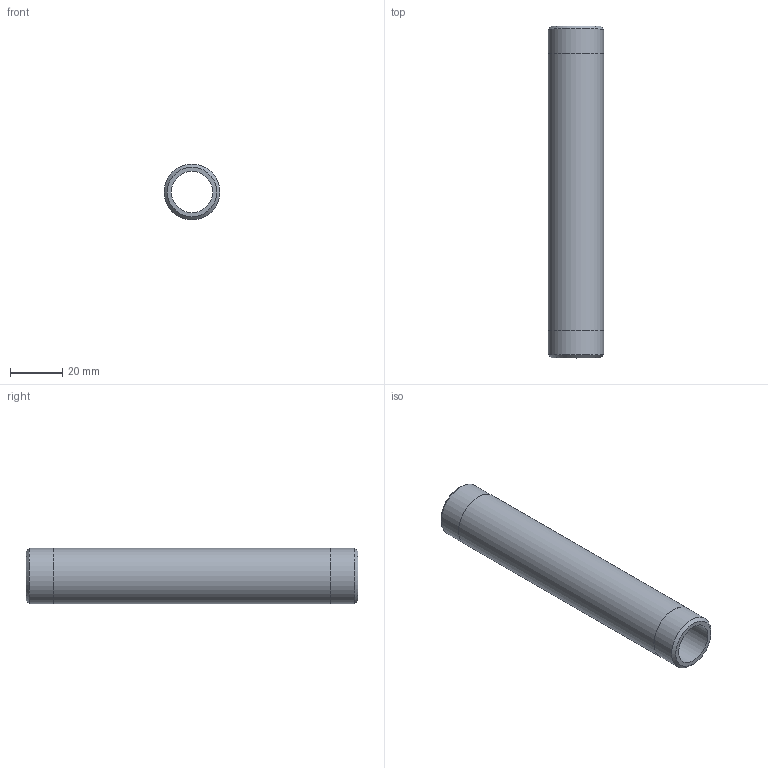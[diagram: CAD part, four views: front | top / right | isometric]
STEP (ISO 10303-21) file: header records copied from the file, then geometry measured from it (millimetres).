
FILE_DESCRIPTION(/* description */ (''),/* implementation_level */ '2;1');
FILE_NAME(/* name */ 'C:/Users/drich/Desktop/SSPN12-5 v1.step',/* time_stamp */ '2020-01-04T12:57:07-06:00',/* author */ (''),/* organization */ (''),/* preprocessor_version */ 'ST-DEVELOPER v18',/* originating_system */ 'Autodesk Translation Framework v8.12.0.6',/* authorisation */ '');
FILE_SCHEMA (('AUTOMOTIVE_DESIGN { 1 0 10303 214 3 1 1 }'));
Length unit declared in the file: inch
Products named in the file (1): SSPN12-5
Bounding box: 21.34 x 127 x 21.34 mm (x, y, z)
Volume: 20389.4 mm3; surface area: 15042.8 mm2
Topology: 1 solids, 1 shells, 10 faces, 24 edges, 18 vertices
Faces by surface type: cylinder 4, plane 4, cone 2
Full cylindrical faces by diameter (mm): 15.799 x1, 21.285 x2, 21.336 x1
Entity records: 353 total; most frequent: DIRECTION 64, CARTESIAN_POINT 53, ORIENTED_EDGE 48, AXIS2_PLACEMENT_3D 29, EDGE_CURVE 24, CIRCLE 18, VERTEX_POINT 18, EDGE_LOOP 14
